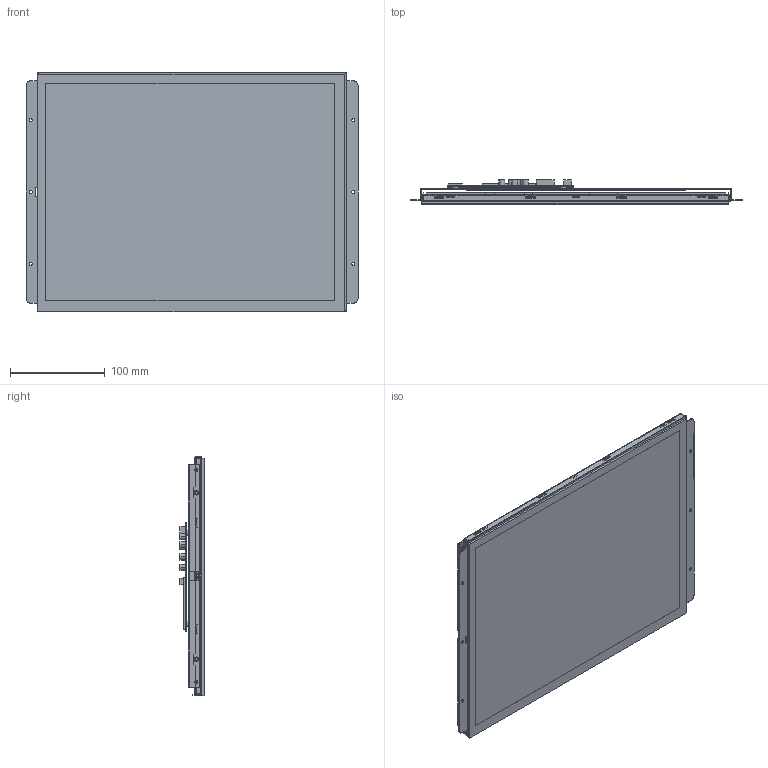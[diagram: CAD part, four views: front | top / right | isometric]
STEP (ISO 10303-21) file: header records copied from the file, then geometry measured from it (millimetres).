
FILE_DESCRIPTION((''),'2;1');
FILE_NAME('3D-DMG10768K150-03WTC','2022-02-23T',('Administrator'),(''),'PRO/ENGINEER BY PARAMETRIC TECHNOLOGY CORPORATION, 2011310','PRO/ENGINEER BY PARAMETRIC TECHNOLOGY CORPORATION, 2011310','');
FILE_SCHEMA(('CONFIG_CONTROL_DESIGN','SHAPE_APPEARANCE_LAYERS_GROUPS'));
Length unit declared in the file: millimetre
Products named in the file (1): 3D-DMG10768K150-03WTC
Bounding box: 351 x 25.4 x 253.5 mm (x, y, z)
Volume: 508701 mm3; surface area: 759376.5 mm2
Topology: 3 solids, 5 shells, 1808 faces, 5042 edges, 3242 vertices
Faces by surface type: plane 1319, cylinder 406, torus 47, sphere 20, cone 12, bspline 4
Entity records: 59514 total; most frequent: CARTESIAN_POINT 10786, ORIENTED_EDGE 10054, DIRECTION 9363, EDGE_CURVE 5027, VECTOR 4087, LINE 4087, VERTEX_POINT 3242, AXIS2_PLACEMENT_3D 2638
